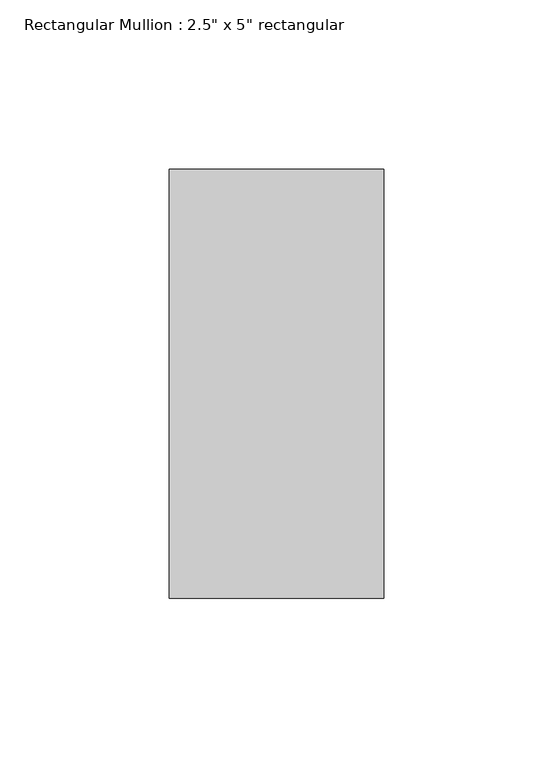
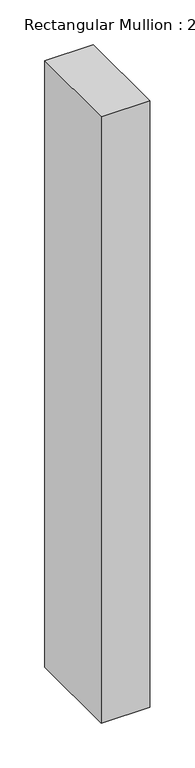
"""IFC4 building model written with IfcOpenShell, lengths in millimetres: member geometry."""

from ifc_helpers import new_model, si_unit, frame, origin, place, context, project, spatial, polyline, outline, extrude, source, transform, mapped, element, save


def member_eb2cf584(model_context):
    return source(origin(), model_context, "Body", "SweptSolid", [
        extrude(outline(polyline([(31.75, 50.8), (31.75, -76.2), (-31.75, -76.2), (-31.75, 50.8), (31.75, 50.8)])), frame((0.0, 0.0, -831.85), z_axis=(0.0, 0.0, 1.0), x_axis=(1.0, 0.0, 0.0)), (0.0, 0.0, 1.0), 831.85),
    ])


if __name__ == "__main__":
    model = new_model("IFC4")
    model_context = context("Model", 3, world=origin())
    ifc_project = project(units=[si_unit("LENGTHUNIT", "METRE", prefix="MILLI")], contexts=[model_context])
    site = spatial("IfcSite", under=ifc_project)
    building = spatial("IfcBuilding", under=site)
    placement = place(None, origin())
    member_shape = member_eb2cf584(model_context)
    element("IfcMember", 1, ObjectType="Rectangular Mullion : 2.5\" x 5\" rectangular", at=placement, inside=building, context=model_context, shape_type="MappedRepresentation", body=[
        mapped(member_shape, transform((0.0, 0.0, 0.0), x_axis=(1.0, 0.0, 0.0), y_axis=(0.0, 1.0, 0.0), z_axis=(0.0, 0.0, 1.0))),
    ])
    save(model, "model.ifc")
